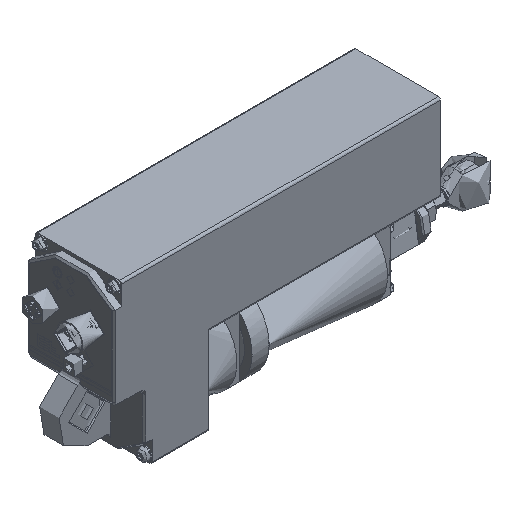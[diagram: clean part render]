
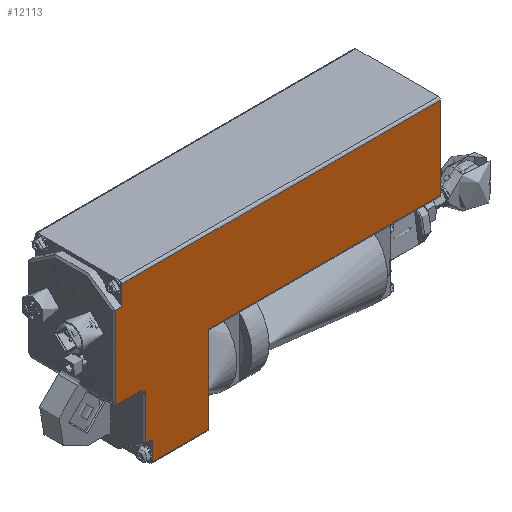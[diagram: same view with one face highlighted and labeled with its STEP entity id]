
A CAD part, isometric view. The second image highlights one B-rep face of the part: STEP entity #12113.
In plain terms, the highlighted planar face has unit normal (0, -1, 0).
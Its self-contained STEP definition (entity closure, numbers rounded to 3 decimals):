
#36 = VERTEX_POINT ( 'NONE', #15274 ) ;
#268 = EDGE_CURVE ( 'NONE', #20913, #4829, #50281, .T. ) ;
#730 = EDGE_CURVE ( 'NONE', #9001, #30945, #19779, .T. ) ;
#827 = EDGE_LOOP ( 'NONE', ( #19322, #46453, #6410, #31587, #11948, #23452, #31512, #49880, #9136, #21577, #42701, #24570, #35516, #13264, #12660, #26685 ) ) ;
#962 = VERTEX_POINT ( 'NONE', #54367 ) ;
#1146 = VECTOR ( 'NONE', #54702, 1000. ) ;
#1674 = EDGE_CURVE ( 'NONE', #24745, #27551, #15743, .T. ) ;
#2126 = DIRECTION ( 'NONE',  ( 0.5, 0., -0.866 ) ) ;
#2338 = VERTEX_POINT ( 'NONE', #21415 ) ;
#2340 = LINE ( 'NONE', #10075, #31446 ) ;
#2601 = VERTEX_POINT ( 'NONE', #28398 ) ;
#3444 = CARTESIAN_POINT ( 'NONE',  ( -36.423, -20., -6.845 ) ) ;
#4325 = CARTESIAN_POINT ( 'NONE',  ( -54.569, -20., 1. ) ) ;
#4421 = CARTESIAN_POINT ( 'NONE',  ( -47.5, -20., -30.019 ) ) ;
#4802 = CARTESIAN_POINT ( 'NONE',  ( -36.423, -20., 30.019 ) ) ;
#4818 = DIRECTION ( 'NONE',  ( 0., 0., -1. ) ) ;
#4829 = VERTEX_POINT ( 'NONE', #22298 ) ;
#5130 = CARTESIAN_POINT ( 'NONE',  ( 6.5, -20., 1. ) ) ;
#5436 = LINE ( 'NONE', #22717, #49962 ) ;
#6410 = ORIENTED_EDGE ( 'NONE', *, *, #36683, .T. ) ;
#6527 = LINE ( 'NONE', #6812, #23151 ) ;
#6686 = VERTEX_POINT ( 'NONE', #5130 ) ;
#6812 = CARTESIAN_POINT ( 'NONE',  ( 6.5, -20., 40. ) ) ;
#7797 = CARTESIAN_POINT ( 'NONE',  ( -9.5, -20., -39. ) ) ;
#7884 = CARTESIAN_POINT ( 'NONE',  ( -19.5, -20., -40. ) ) ;
#8959 = CARTESIAN_POINT ( 'NONE',  ( -47.5, -20., 30.019 ) ) ;
#9001 = VERTEX_POINT ( 'NONE', #21653 ) ;
#9136 = ORIENTED_EDGE ( 'NONE', *, *, #51081, .T. ) ;
#10075 = CARTESIAN_POINT ( 'NONE',  ( -22.423, -20., -30.019 ) ) ;
#11792 = EDGE_CURVE ( 'NONE', #21558, #2601, #24036, .T. ) ;
#11920 = VERTEX_POINT ( 'NONE', #19688 ) ;
#11948 = ORIENTED_EDGE ( 'NONE', *, *, #52353, .T. ) ;
#12105 = DIRECTION ( 'NONE',  ( 0., 0., 1. ) ) ;
#12113 = ADVANCED_FACE ( 'NONE', ( #50669 ), #50938, .F. ) ;
#12660 = ORIENTED_EDGE ( 'NONE', *, *, #730, .T. ) ;
#13264 = ORIENTED_EDGE ( 'NONE', *, *, #47251, .T. ) ;
#15274 = CARTESIAN_POINT ( 'NONE',  ( -22., -20., -30.019 ) ) ;
#15347 = CARTESIAN_POINT ( 'NONE',  ( -25., -20., -7.923 ) ) ;
#15620 = VECTOR ( 'NONE', #53815, 1000. ) ;
#15743 = LINE ( 'NONE', #54526, #44143 ) ;
#16601 = DIRECTION ( 'NONE',  ( 0., 1., 0. ) ) ;
#16807 = VECTOR ( 'NONE', #50335, 1000. ) ;
#16830 = DIRECTION ( 'NONE',  ( 1., 0., 0. ) ) ;
#17639 = EDGE_CURVE ( 'NONE', #32647, #30945, #47188, .T. ) ;
#18139 = LINE ( 'NONE', #51962, #55131 ) ;
#19245 = CARTESIAN_POINT ( 'NONE',  ( -9.5, -20., -7.923 ) ) ;
#19322 = ORIENTED_EDGE ( 'NONE', *, *, #52314, .T. ) ;
#19506 = LINE ( 'NONE', #19245, #48217 ) ;
#19688 = CARTESIAN_POINT ( 'NONE',  ( -19.5, -20., -37. ) ) ;
#19779 = LINE ( 'NONE', #36819, #15620 ) ;
#20913 = VERTEX_POINT ( 'NONE', #15347 ) ;
#21344 = CARTESIAN_POINT ( 'NONE',  ( -22.282, -20., -29.756 ) ) ;
#21415 = CARTESIAN_POINT ( 'NONE',  ( -19.5, -20., -30.019 ) ) ;
#21558 = VERTEX_POINT ( 'NONE', #40819 ) ;
#21577 = ORIENTED_EDGE ( 'NONE', *, *, #11792, .T. ) ;
#21653 = CARTESIAN_POINT ( 'NONE',  ( -33.5, -20., 39. ) ) ;
#22298 = CARTESIAN_POINT ( 'NONE',  ( -22.423, -20., -10.5 ) ) ;
#22717 = CARTESIAN_POINT ( 'NONE',  ( -9.5, -20., 39. ) ) ;
#22967 = LINE ( 'NONE', #48602, #49221 ) ;
#23151 = VECTOR ( 'NONE', #53410, 1000. ) ;
#23154 = VECTOR ( 'NONE', #16830, 1000. ) ;
#23452 = ORIENTED_EDGE ( 'NONE', *, *, #38452, .T. ) ;
#24036 = LINE ( 'NONE', #7797, #1146 ) ;
#24570 = ORIENTED_EDGE ( 'NONE', *, *, #36107, .T. ) ;
#24745 = VERTEX_POINT ( 'NONE', #34142 ) ;
#24785 = CARTESIAN_POINT ( 'NONE',  ( -25., -20., -10.5 ) ) ;
#24976 = VECTOR ( 'NONE', #43000, 1000. ) ;
#26685 = ORIENTED_EDGE ( 'NONE', *, *, #17639, .F. ) ;
#27551 = VERTEX_POINT ( 'NONE', #31425 ) ;
#27574 = VECTOR ( 'NONE', #2126, 1000. ) ;
#28173 = DIRECTION ( 'NONE',  ( 0., 0., 1. ) ) ;
#28398 = CARTESIAN_POINT ( 'NONE',  ( 6.5, -20., -39. ) ) ;
#30066 = EDGE_CURVE ( 'NONE', #2338, #11920, #18139, .T. ) ;
#30643 = CARTESIAN_POINT ( 'NONE',  ( -33.5, -20., 30.019 ) ) ;
#30945 = VERTEX_POINT ( 'NONE', #30643 ) ;
#31148 = LINE ( 'NONE', #44423, #27574 ) ;
#31377 = EDGE_CURVE ( 'NONE', #54922, #52392, #31148, .T. ) ;
#31425 = CARTESIAN_POINT ( 'NONE',  ( 113.5, -20., 39. ) ) ;
#31446 = VECTOR ( 'NONE', #44936, 1000. ) ;
#31512 = ORIENTED_EDGE ( 'NONE', *, *, #45972, .T. ) ;
#31587 = ORIENTED_EDGE ( 'NONE', *, *, #268, .T. ) ;
#32647 = VERTEX_POINT ( 'NONE', #4802 ) ;
#32959 = DIRECTION ( 'NONE',  ( 1., 0., 0. ) ) ;
#33136 = CARTESIAN_POINT ( 'NONE',  ( -9.5, -20., 40. ) ) ;
#34142 = CARTESIAN_POINT ( 'NONE',  ( 113.5, -20., 1. ) ) ;
#35283 = DIRECTION ( 'NONE',  ( -1., 0., 0. ) ) ;
#35516 = ORIENTED_EDGE ( 'NONE', *, *, #1674, .T. ) ;
#36107 = EDGE_CURVE ( 'NONE', #6686, #24745, #41948, .T. ) ;
#36683 = EDGE_CURVE ( 'NONE', #52392, #20913, #19506, .T. ) ;
#36764 = DIRECTION ( 'NONE',  ( 0., 1., 0. ) ) ;
#36819 = CARTESIAN_POINT ( 'NONE',  ( -33.5, -20., 40. ) ) ;
#37521 = CARTESIAN_POINT ( 'NONE',  ( -22.423, -20., -29.623 ) ) ;
#37781 = LINE ( 'NONE', #7884, #16807 ) ;
#38452 = EDGE_CURVE ( 'NONE', #962, #36, #49888, .T. ) ;
#39216 = VECTOR ( 'NONE', #45686, 1000. ) ;
#40819 = CARTESIAN_POINT ( 'NONE',  ( -19.5, -20., -39. ) ) ;
#41584 = CARTESIAN_POINT ( 'NONE',  ( -35.801, -20., -7.923 ) ) ;
#41764 = LINE ( 'NONE', #4421, #39216 ) ;
#41948 = LINE ( 'NONE', #4325, #23154 ) ;
#42701 = ORIENTED_EDGE ( 'NONE', *, *, #46362, .F. ) ;
#43000 = DIRECTION ( 'NONE',  ( 1., 0., 0. ) ) ;
#43977 = AXIS2_PLACEMENT_3D ( 'NONE', #24785, #36764, #28173 ) ;
#44143 = VECTOR ( 'NONE', #53970, 1000. ) ;
#44423 = CARTESIAN_POINT ( 'NONE',  ( -35.634, -20., -8.211 ) ) ;
#44658 = DIRECTION ( 'NONE',  ( 0., 0., -1. ) ) ;
#44936 = DIRECTION ( 'NONE',  ( 0., 0., -1. ) ) ;
#45686 = DIRECTION ( 'NONE',  ( 1., 0., 0. ) ) ;
#45972 = EDGE_CURVE ( 'NONE', #36, #2338, #41764, .T. ) ;
#46362 = EDGE_CURVE ( 'NONE', #6686, #2601, #6527, .T. ) ;
#46453 = ORIENTED_EDGE ( 'NONE', *, *, #31377, .T. ) ;
#46693 = CARTESIAN_POINT ( 'NONE',  ( -22., -20., -30.019 ) ) ;
#47188 = LINE ( 'NONE', #8959, #24976 ) ;
#47251 = EDGE_CURVE ( 'NONE', #27551, #9001, #5436, .T. ) ;
#48217 = VECTOR ( 'NONE', #32959, 1000. ) ;
#48347 = AXIS2_PLACEMENT_3D ( 'NONE', #33136, #16601, #12105 ) ;
#48602 = CARTESIAN_POINT ( 'NONE',  ( -36.423, -20., 40. ) ) ;
#49221 = VECTOR ( 'NONE', #44658, 1000. ) ;
#49880 = ORIENTED_EDGE ( 'NONE', *, *, #30066, .T. ) ;
#49888 = B_SPLINE_CURVE_WITH_KNOTS ( 'NONE', 3,
 ( #37521, #21344, #50074, #46693 ),
 .UNSPECIFIED., .F., .F.,
 ( 4, 4 ),
 ( 0., 0.001 ),
 .UNSPECIFIED. ) ;
#49962 = VECTOR ( 'NONE', #35283, 1000. ) ;
#50074 = CARTESIAN_POINT ( 'NONE',  ( -22.141, -20., -29.888 ) ) ;
#50281 = CIRCLE ( 'NONE', #43977, 2.577 ) ;
#50335 = DIRECTION ( 'NONE',  ( 0., 0., -1. ) ) ;
#50669 = FACE_OUTER_BOUND ( 'NONE', #827, .T. ) ;
#50938 = PLANE ( 'NONE',  #48347 ) ;
#51081 = EDGE_CURVE ( 'NONE', #11920, #21558, #37781, .T. ) ;
#51962 = CARTESIAN_POINT ( 'NONE',  ( -19.5, -20., -40. ) ) ;
#52314 = EDGE_CURVE ( 'NONE', #32647, #54922, #22967, .T. ) ;
#52353 = EDGE_CURVE ( 'NONE', #4829, #962, #2340, .T. ) ;
#52392 = VERTEX_POINT ( 'NONE', #41584 ) ;
#53410 = DIRECTION ( 'NONE',  ( 0., 0., -1. ) ) ;
#53815 = DIRECTION ( 'NONE',  ( 0., 0., -1. ) ) ;
#53970 = DIRECTION ( 'NONE',  ( 0., 0., 1. ) ) ;
#54367 = CARTESIAN_POINT ( 'NONE',  ( -22.423, -20., -29.623 ) ) ;
#54526 = CARTESIAN_POINT ( 'NONE',  ( 113.5, -20., 39. ) ) ;
#54702 = DIRECTION ( 'NONE',  ( 1., 0., 0. ) ) ;
#54922 = VERTEX_POINT ( 'NONE', #3444 ) ;
#55131 = VECTOR ( 'NONE', #4818, 1000. ) ;
